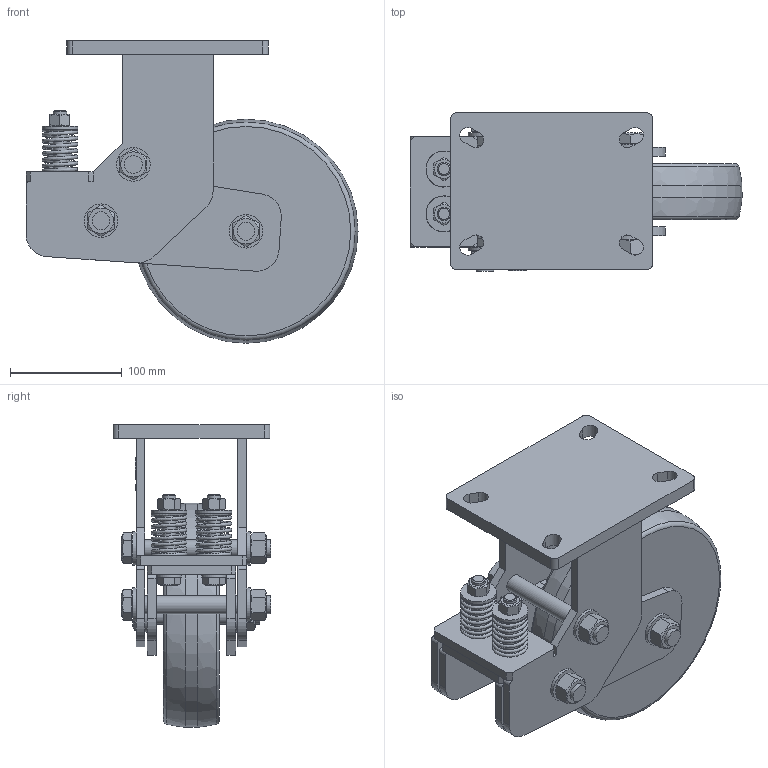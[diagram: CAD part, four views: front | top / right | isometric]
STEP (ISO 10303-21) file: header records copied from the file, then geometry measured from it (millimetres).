
FILE_DESCRIPTION(/* description */ (''),/* implementation_level */ '2;1');
FILE_NAME(/* name */ '45F08_8_F.stp',/* time_stamp */ '2022-10-07T11:30:23+08:00',/* author */ (''),/* organization */ (''),/* preprocessor_version */ 'ST-DEVELOPER v14',/* originating_system */ 'SIEMENS PLM Software NX 8.0',/* authorisation */ '');
FILE_SCHEMA (('AUTOMOTIVE_DESIGN { 1 0 10303 214 3 1 1 1 }'));
Length unit declared in the file: millimetre
Products named in the file (1): 45F08_8_F
Bounding box: 296.45 x 140.95 x 270.02 mm (x, y, z)
Volume: 2587859.3 mm3; surface area: 375746.5 mm2
Topology: 1 solids, 1 shells, 563 faces, 1412 edges, 918 vertices
Faces by surface type: plane 398, cylinder 103, bspline 26, cone 22, torus 14
Full cylindrical faces by diameter (mm): 12 x4, 13 x4, 16 x7, 16.3 x8, 17 x8, 22 x2, 30 x6, 32 x2, 200 x1
Entity records: 22802 total; most frequent: CARTESIAN_POINT 10332, ORIENTED_EDGE 2596, DIRECTION 2332, EDGE_CURVE 1298, VERTEX_POINT 882, AXIS2_PLACEMENT_3D 854, EDGE_LOOP 732, LINE 624
